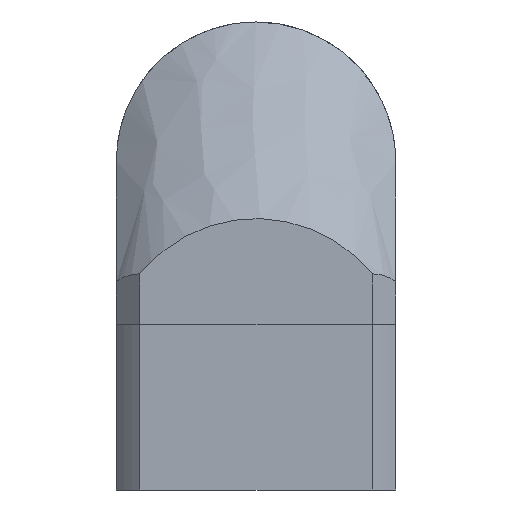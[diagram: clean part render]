
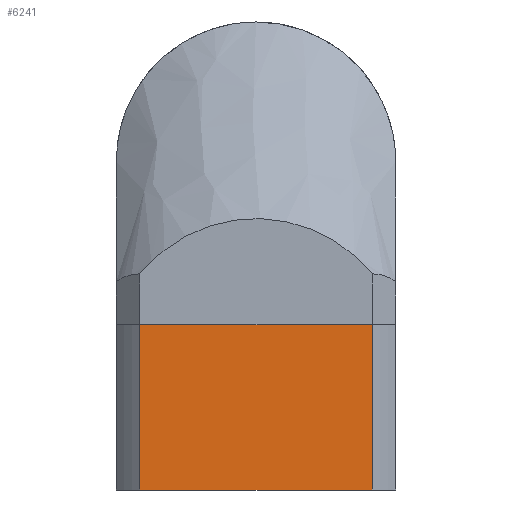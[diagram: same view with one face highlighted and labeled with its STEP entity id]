
A CAD part, front view. The second image highlights one B-rep face of the part: STEP entity #6241.
In plain terms, the highlighted planar face has unit normal (0, -1, 0).
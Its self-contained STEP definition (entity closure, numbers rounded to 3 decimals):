
#66 = CARTESIAN_POINT ( 'NONE',  ( -24.92, -30., 0. ) ) ;
#421 = CARTESIAN_POINT ( 'NONE',  ( 24.92, -30., -35.5 ) ) ;
#827 = DIRECTION ( 'NONE',  ( 0., 0., -1. ) ) ;
#1097 = VECTOR ( 'NONE', #827, 1000. ) ;
#1696 = DIRECTION ( 'NONE',  ( 0., -1., 0. ) ) ;
#1885 = CARTESIAN_POINT ( 'NONE',  ( -30., -30., -35.5 ) ) ;
#1956 = VECTOR ( 'NONE', #23519, 1000. ) ;
#2595 = EDGE_CURVE ( 'NONE', #18661, #3686, #9443, .T. ) ;
#3411 = PLANE ( 'NONE',  #25445 ) ;
#3686 = VERTEX_POINT ( 'NONE', #14291 ) ;
#4714 = CARTESIAN_POINT ( 'NONE',  ( 0., -30., 0. ) ) ;
#6241 = ADVANCED_FACE ( 'NONE', ( #23955 ), #3411, .T. ) ;
#8741 = DIRECTION ( 'NONE',  ( 1., 0., 0. ) ) ;
#9007 = CARTESIAN_POINT ( 'NONE',  ( 24.92, -30., 0. ) ) ;
#9443 = LINE ( 'NONE', #16872, #1956 ) ;
#12572 = DIRECTION ( 'NONE',  ( 0., 0., -1. ) ) ;
#13648 = VECTOR ( 'NONE', #13784, 1000. ) ;
#13784 = DIRECTION ( 'NONE',  ( -1., 0., 0. ) ) ;
#14139 = EDGE_LOOP ( 'NONE', ( #21592, #15660, #17359, #16333 ) ) ;
#14291 = CARTESIAN_POINT ( 'NONE',  ( -24.92, -30., -35.5 ) ) ;
#15525 = EDGE_CURVE ( 'NONE', #22688, #28292, #27768, .T. ) ;
#15614 = CARTESIAN_POINT ( 'NONE',  ( 0., -30., -35.5 ) ) ;
#15660 = ORIENTED_EDGE ( 'NONE', *, *, #25614, .T. ) ;
#16333 = ORIENTED_EDGE ( 'NONE', *, *, #16457, .T. ) ;
#16457 = EDGE_CURVE ( 'NONE', #22688, #18661, #23633, .T. ) ;
#16872 = CARTESIAN_POINT ( 'NONE',  ( -24.92, -30., -35.5 ) ) ;
#17359 = ORIENTED_EDGE ( 'NONE', *, *, #15525, .F. ) ;
#18661 = VERTEX_POINT ( 'NONE', #66 ) ;
#19087 = VECTOR ( 'NONE', #8741, 1000. ) ;
#19802 = LINE ( 'NONE', #15614, #19087 ) ;
#21592 = ORIENTED_EDGE ( 'NONE', *, *, #2595, .T. ) ;
#22688 = VERTEX_POINT ( 'NONE', #9007 ) ;
#23519 = DIRECTION ( 'NONE',  ( 0., 0., -1. ) ) ;
#23633 = LINE ( 'NONE', #4714, #13648 ) ;
#23955 = FACE_OUTER_BOUND ( 'NONE', #14139, .T. ) ;
#24881 = CARTESIAN_POINT ( 'NONE',  ( 24.92, -30., 0. ) ) ;
#25445 = AXIS2_PLACEMENT_3D ( 'NONE', #1885, #1696, #12572 ) ;
#25614 = EDGE_CURVE ( 'NONE', #3686, #28292, #19802, .T. ) ;
#27768 = LINE ( 'NONE', #24881, #1097 ) ;
#28292 = VERTEX_POINT ( 'NONE', #421 ) ;
